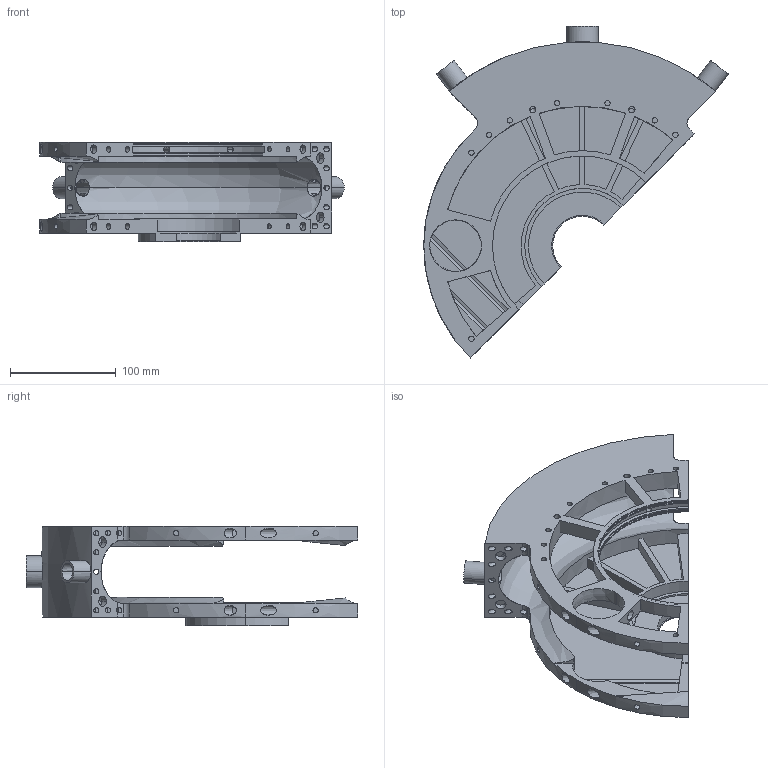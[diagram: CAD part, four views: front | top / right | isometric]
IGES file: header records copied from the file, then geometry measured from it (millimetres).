
Start section: IMSI TurboCAD v14.0
Global section: author: NULL; organization: NULL; date: 20250711.180539; units: millimetre
Bounding box: 288 x 314.07 x 94 mm (x, y, z)
Surface area: 330409.1 mm2 (no closed solid volume)
Topology: 0 solids, 0 shells, 437 faces, 2726 edges, 2728 vertices
Faces by surface type: revolution 257, extrusion 180
